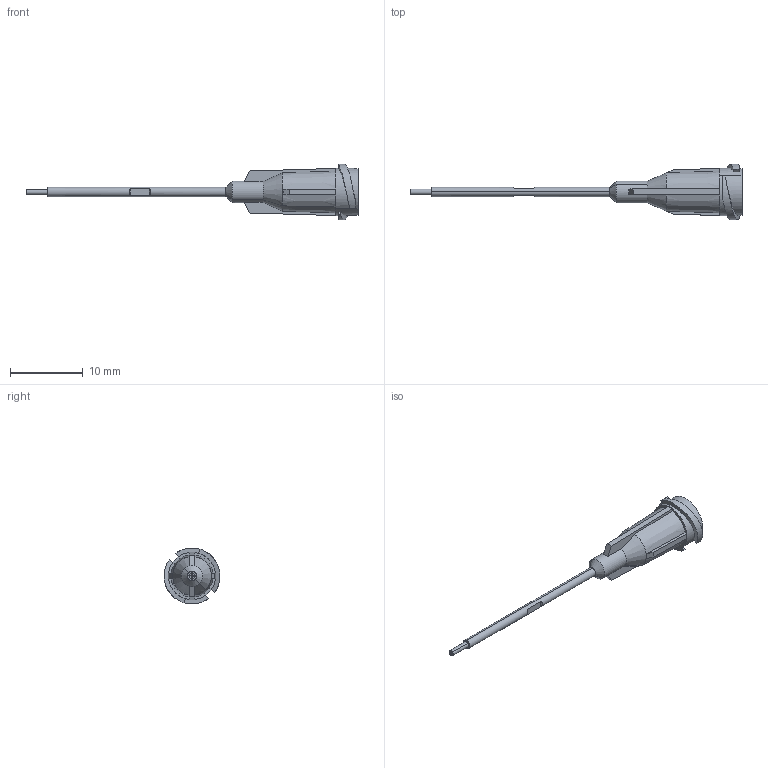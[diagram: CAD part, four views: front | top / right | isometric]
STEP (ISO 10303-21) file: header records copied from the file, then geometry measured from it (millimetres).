
FILE_DESCRIPTION (( 'STEP AP214' ), '1' );
FILE_NAME ('8001255_CUS.STEP', '2022-07-18T11:37:46', ( '' ), ( '' ), 'SwSTEP 2.0', 'SolidWorks 2020', '' );
FILE_SCHEMA (( 'AUTOMOTIVE_DESIGN' ));
Length unit declared in the file: millimetre
Products named in the file (1): 8001255_CUS
Bounding box: 45.77 x 7.69 x 7.7 mm (x, y, z)
Surface area: 824 mm2 (no closed solid volume)
Topology: 0 solids, 4 shells, 72 faces, 190 edges, 122 vertices
Faces by surface type: plane 42, cylinder 12, cone 12, bspline 6
Entity records: 3270 total; most frequent: CARTESIAN_POINT 759, ORIENTED_EDGE 352, DIRECTION 346, EDGE_CURVE 190, AXIS2_PLACEMENT_3D 131, VERTEX_POINT 122, LINE 84, VECTOR 84
